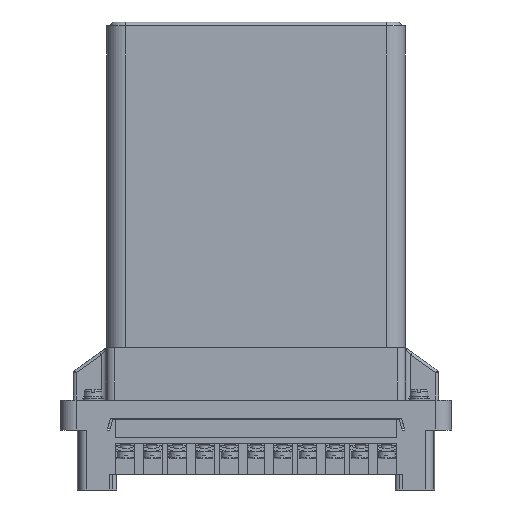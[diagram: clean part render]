
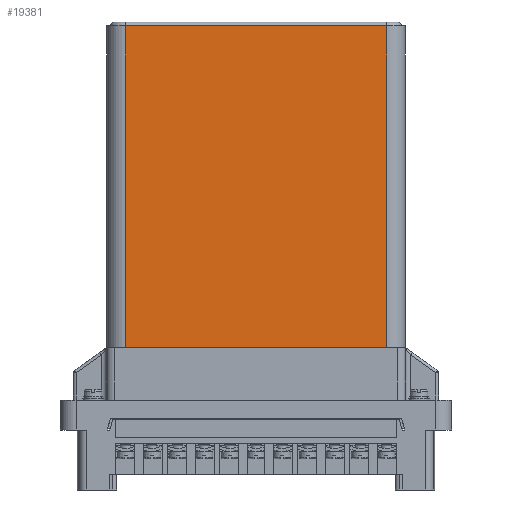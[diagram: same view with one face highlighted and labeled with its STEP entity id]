
A CAD part, left-side view. The second image highlights one B-rep face of the part: STEP entity #19381.
In plain terms, the highlighted planar face has unit normal (-1, 0, 0).
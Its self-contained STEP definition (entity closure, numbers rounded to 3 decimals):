
#19381=ADVANCED_FACE('',(#79543),#79545,.T.);
#79543=FACE_BOUND('',#79544,.T.);
#79544=EDGE_LOOP('',(#129239,#129240,#129241,#129242));
#79545=PLANE('',#79546);
#79546=AXIS2_PLACEMENT_3D('',#79547,#79548,#79549);
#79547=CARTESIAN_POINT('',(-32.15,50.15,31.5));
#79548=DIRECTION('',(-1.,0.,0.));
#79549=DIRECTION('',(0.,-1.,0.));
#129239=ORIENTED_EDGE('',*,*,#157605,.T.);
#129240=ORIENTED_EDGE('',*,*,#159773,.T.);
#129241=ORIENTED_EDGE('',*,*,#159774,.F.);
#129242=ORIENTED_EDGE('',*,*,#159775,.F.);
#157605=EDGE_CURVE('',#178502,#178500,#178503,.T.);
#159773=EDGE_CURVE('',#178500,#182562,#182564,.T.);
#159774=EDGE_CURVE('',#182565,#182562,#182566,.T.);
#159775=EDGE_CURVE('',#178502,#182565,#182567,.T.);
#178500=VERTEX_POINT('',#217752);
#178502=VERTEX_POINT('',#217757);
#178503=LINE('',#217758,#217759);
#182562=VERTEX_POINT('',#226943);
#182564=LINE('',#226948,#226949);
#182565=VERTEX_POINT('',#226951);
#182566=LINE('',#226952,#226953);
#182567=LINE('',#226955,#226956);
#217752=CARTESIAN_POINT('',(-32.15,-50.15,31.5));
#217757=CARTESIAN_POINT('',(-32.15,50.15,31.5));
#217758=CARTESIAN_POINT('',(-32.15,50.15,31.5));
#217759=VECTOR('',#217760,1.);
#217760=DIRECTION('',(0.,-1.,0.));
#226943=CARTESIAN_POINT('',(-32.15,-50.15,155.));
#226948=CARTESIAN_POINT('',(-32.15,-50.15,31.5));
#226949=VECTOR('',#226950,1.);
#226950=DIRECTION('',(0.,0.,1.));
#226951=CARTESIAN_POINT('',(-32.15,50.15,155.));
#226952=CARTESIAN_POINT('',(-32.15,50.15,155.));
#226953=VECTOR('',#226954,1.);
#226954=DIRECTION('',(0.,-1.,0.));
#226955=CARTESIAN_POINT('',(-32.15,50.15,31.5));
#226956=VECTOR('',#226957,1.);
#226957=DIRECTION('',(0.,0.,1.));
